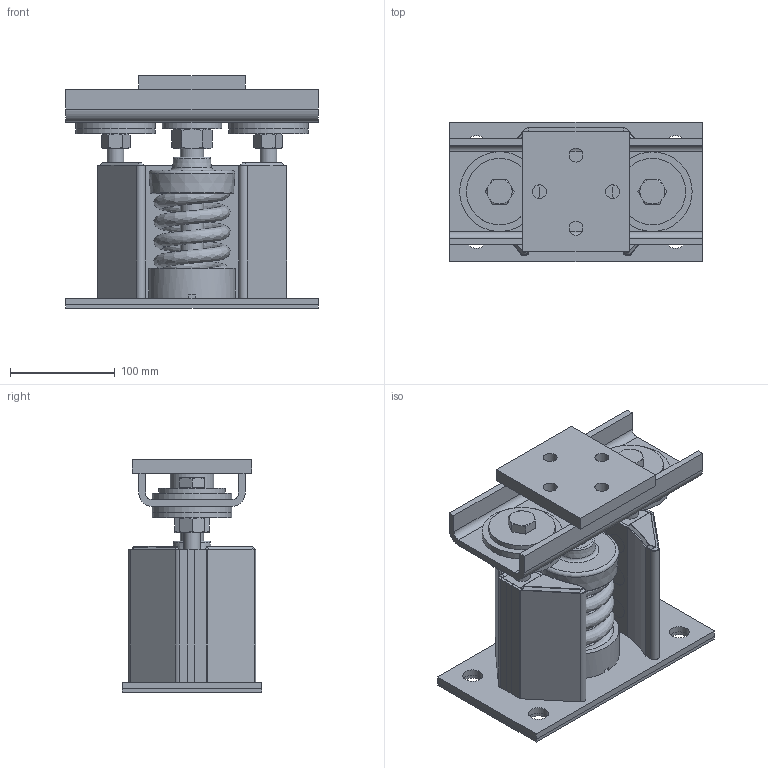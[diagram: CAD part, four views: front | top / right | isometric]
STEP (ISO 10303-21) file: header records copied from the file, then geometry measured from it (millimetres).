
FILE_DESCRIPTION(/* description */ (''),/* implementation_level */ '2;1');
FILE_NAME(/* name */ '\\Mleuckthor2\cad-proe_solids\WEBSITE FILES 05.22.13\STEP\SLRSO\SLRSO-1.stp',/* time_stamp */ '2016-04-28T12:08:26-04:00',/* author */ ('rramoutar'),/* organization */ ('Mason Industries Inc.'),/* preprocessor_version */ 'ST-DEVELOPER v15.6',/* originating_system */ 'Autodesk Inventor 2015',/* authorisation */ '');
FILE_SCHEMA (('CONFIG_CONTROL_DESIGN'));
Products named in the file (1): SLRSO-1-2935
Bounding box: 241.3 x 133.35 x 222.25 mm (x, y, z)
Volume: 1636287.1 mm3; surface area: 687739.1 mm2
Topology: 43 solids, 44 shells, 1849 faces, 4331 edges, 2850 vertices
Faces by surface type: plane 1628, cylinder 136, cone 76, torus 8, bspline 1
Full cylindrical faces by diameter (mm): 12.7 x1, 13.386 x6, 14.287 x2, 15.875 x6, 19.05 x26, 19.177 x1, 21.431 x2, 22.225 x2, 23.812 x1, 25.4 x1, 34.925 x2, 35.052 x1, 41.275 x4, 42.164 x1, 57.15 x1, 63.5 x2, 72.231 x1, 73.025 x2, 74.612 x1, 76.2 x6, 82.55 x1
Entity records: 55352 total; most frequent: CARTESIAN_POINT 11275, ORIENTED_EDGE 8430, DIRECTION 8176, EDGE_CURVE 4215, LINE 3750, VECTOR 3750, VERTEX_POINT 2824, EDGE_LOOP 2303
